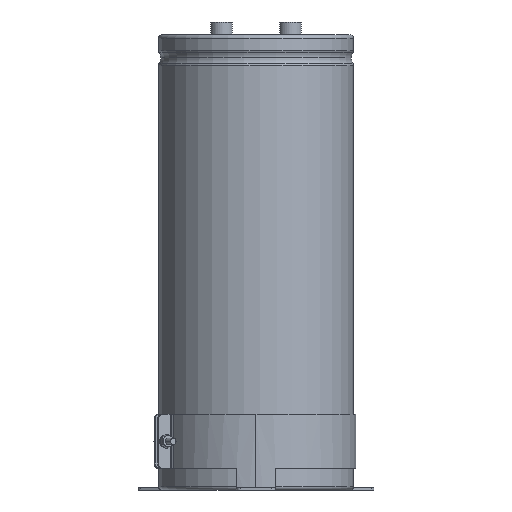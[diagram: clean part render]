
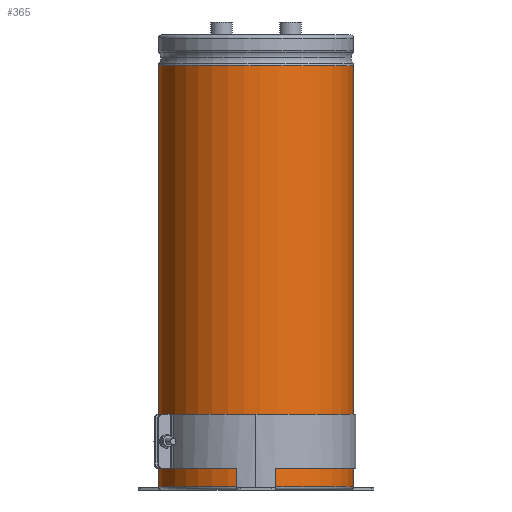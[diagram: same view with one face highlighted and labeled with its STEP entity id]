
A CAD part, left-side view. The second image highlights one B-rep face of the part: STEP entity #365.
In plain terms, the highlighted cylindrical face has radius 45 mm (diameter 90 mm), a partial arc.
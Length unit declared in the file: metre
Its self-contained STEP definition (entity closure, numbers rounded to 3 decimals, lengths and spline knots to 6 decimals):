
#365=ADVANCED_FACE('0:237',(#597),#598,.T.);
#597=FACE_OUTER_BOUND('',#1082,.T.);
#598=CYLINDRICAL_SURFACE('',#1083,0.045);
#1082=EDGE_LOOP('',(#2038,#2039,#2040,#2041));
#1083=AXIS2_PLACEMENT_3D('',#2042,#2043,#2044);
#2038=ORIENTED_EDGE('',*,*,#2995,.T.);
#2039=ORIENTED_EDGE('',*,*,#3004,.T.);
#2040=ORIENTED_EDGE('',*,*,#3006,.T.);
#2041=ORIENTED_EDGE('',*,*,#3007,.F.);
#2042=CARTESIAN_POINT('',(0.0,0.0,0.0));
#2043=DIRECTION('',(-0.0,0.0,1.0));
#2044=DIRECTION('',(0.0,1.0,0.0));
#2995=EDGE_CURVE('',#5626,#5634,#5635,.T.);
#3004=EDGE_CURVE('0:309',#5634,#5645,#5647,.T.);
#3006=EDGE_CURVE('0:312',#5645,#5649,#5650,.T.);
#3007=EDGE_CURVE('0:315',#5626,#5649,#5651,.T.);
#5626=VERTEX_POINT('',#6662);
#5634=VERTEX_POINT('',#6670);
#5635=LINE('',#6671,#6672);
#5645=VERTEX_POINT('',#6683);
#5647=CIRCLE('',#6685,0.045);
#5649=VERTEX_POINT('',#6687);
#5650=LINE('',#6688,#6689);
#5651=CIRCLE('',#6690,0.045);
#6662=CARTESIAN_POINT('',(0.,-0.045,0.0015));
#6670=CARTESIAN_POINT('',(0.,-0.045,0.1959));
#6671=CARTESIAN_POINT('',(0.,-0.045,0.0987));
#6672=VECTOR('',#8209,1.0);
#6683=CARTESIAN_POINT('',(-0.004,0.044822,0.1959));
#6685=AXIS2_PLACEMENT_3D('',#8226,#8227,#8228);
#6687=CARTESIAN_POINT('',(-0.004,0.044822,0.0015));
#6688=CARTESIAN_POINT('',(-0.004,0.044822,0.1959));
#6689=VECTOR('',#8229,0.001);
#6690=AXIS2_PLACEMENT_3D('',#8230,#8231,#8232);
#8209=DIRECTION('',(0.0,0.0,1.0));
#8226=CARTESIAN_POINT('',(0.0,0.0,0.1959));
#8227=DIRECTION('',(0.0,0.0,-1.0));
#8228=DIRECTION('',(0.0,1.0,0.0));
#8229=DIRECTION('',(0.0,0.0,-1.0));
#8230=CARTESIAN_POINT('',(0.0,0.0,0.0015));
#8231=DIRECTION('',(0.0,0.0,-1.0));
#8232=DIRECTION('',(0.0,1.0,0.0));
